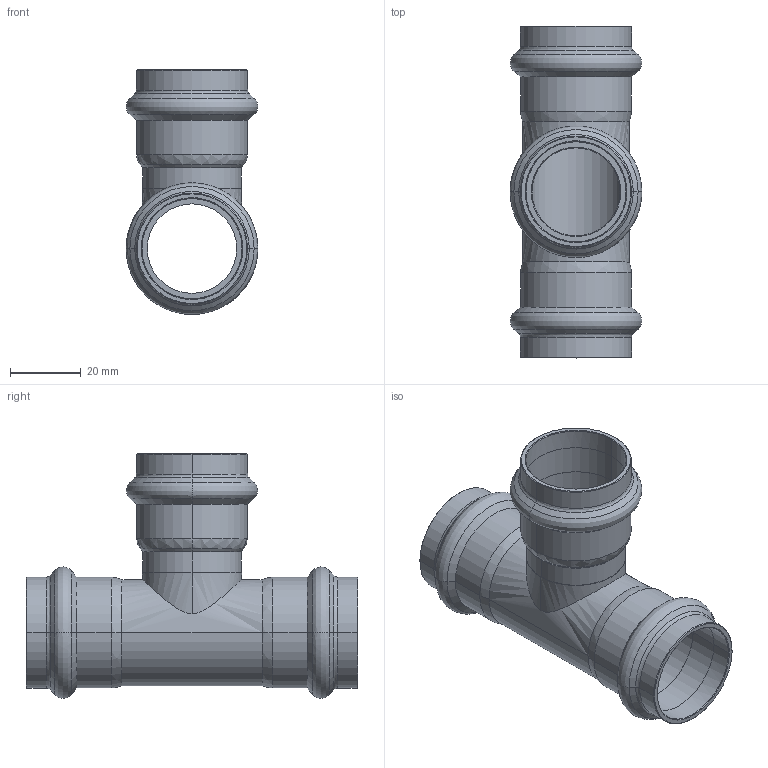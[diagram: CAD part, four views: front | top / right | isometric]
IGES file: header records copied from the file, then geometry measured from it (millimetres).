
Start section: Elysium IGES Interface
Global section: file name: C:\Users\Wallenburg\Desktop\3d modellen sudo\S-Pr VP\SP6130V\6130VW28.igs; native system: CoCreate Modeling 17.00A  17-Jun-2010; preprocessor: CoCreate IGES_3D V2.2; author: Unknown; organization: Unknown; date: 20130117.125847; units: millimetre
Bounding box: 37.2 x 93.81 x 69.2 mm (x, y, z)
Volume: 22403 mm3; surface area: 25383.2 mm2
Topology: 1 solids, 1 shells, 128 faces, 272 edges, 154 vertices
Faces by surface type: bspline 128
